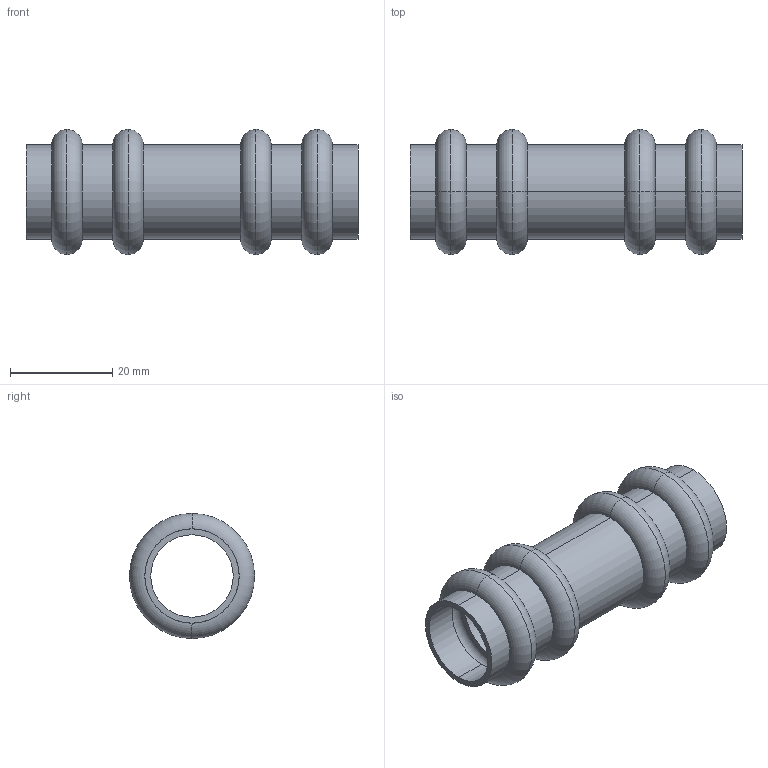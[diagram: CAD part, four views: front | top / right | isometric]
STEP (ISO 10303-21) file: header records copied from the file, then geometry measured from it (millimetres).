
FILE_DESCRIPTION(('starvars output'),'1');
FILE_NAME('cv20240422105156000011936.stp','10:51:57 2024/04/22',('Thomas Industrial Network Germany GmbH'),(' '),'Spatial InterOp 3D',' ',' ');
FILE_SCHEMA(('AUTOMOTIVE_DESIGN { 1 0 10303 214 3 1 1 }'));
Length unit declared in the file: millimetre
Products named in the file (1): 1
Bounding box: 65 x 24.5 x 24.5 mm (x, y, z)
Volume: 5828.8 mm3; surface area: 9662.8 mm2
Topology: 1 solids, 1 shells, 70 faces, 140 edges, 88 vertices
Faces by surface type: torus 32, cylinder 20, plane 18
Entity records: 2464 total; most frequent: DIRECTION 402, CARTESIAN_POINT 299, ORIENTED_EDGE 280, AXIS2_PLACEMENT_3D 191, EDGE_CURVE 140, CIRCLE 120, EDGE_LOOP 88, VERTEX_POINT 88
